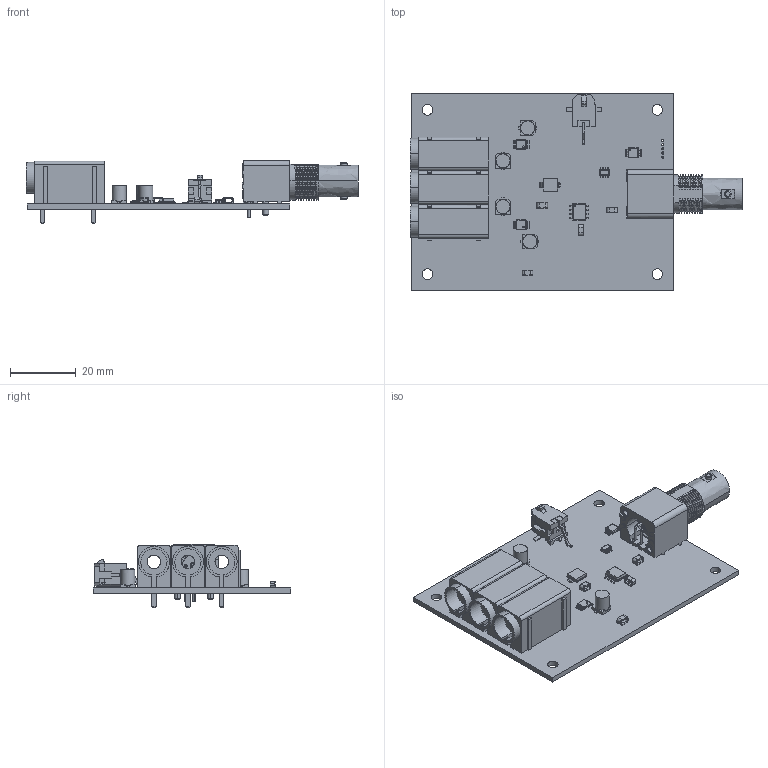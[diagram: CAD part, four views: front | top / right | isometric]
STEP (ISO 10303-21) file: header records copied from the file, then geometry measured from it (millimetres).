
FILE_DESCRIPTION(('KiCad electronic assembly'),'2;1');
FILE_NAME('cosmic_ray_detector.step','2022-05-26T20:18:57',('Pcbnew'),( 'Kicad'),'Open CASCADE STEP processor 7.5','KiCad to STEP converter' ,'Unknown');
FILE_SCHEMA(('AUTOMOTIVE_DESIGN { 1 0 10303 214 1 1 1 1 }'));
Length unit declared in the file: millimetre
Products named in the file (26): cosmic_ray_detector 1; CAP_2153_0405_VIS; COMPOUND; s1751-46r; SOLID; AD5270BRMZ-100-RL7; 73137-5003; MSOP-8-1EP_3x3mm_P0.65mm_EP1.68x1.88mm; User Library-Multicomp_24_243_2(black); User Library-Multicomp_24_243_1 (red); VBPW34S--3DModel-STEP-56544; User Library-Multicomp_24_243_4 (green); TL072CDT; 430450210; TLV3501AIDBVTG4; _autosave-cosmic_ray_detector PCB
Assembly tree (32 placements, depth 3):
  cosmic_ray_detector 1
    CAP_2153_0405_VIS  x4
      COMPOUND
    s1751-46r  x4
      SOLID
    AD5270BRMZ-100-RL7
      COMPOUND
    73137-5003
      COMPOUND
    MSOP-8-1EP_3x3mm_P0.65mm_EP1.68x1.88mm  x2
      SOLID
    User Library-Multicomp_24_243_2(black)
      SOLID
    User Library-Multicomp_24_243_1 (red)
      SOLID
    VBPW34S--3DModel-STEP-56544
      COMPOUND
    User Library-Multicomp_24_243_4 (green)
      SOLID
    TL072CDT
      COMPOUND
    430450210
      COMPOUND
    TLV3501AIDBVTG4
      COMPOUND
    _autosave-cosmic_ray_detector PCB
Bounding box: 101.1 x 60 x 19.2 mm (x, y, z)
Volume: 18757.4 mm3; surface area: 20246 mm2
Topology: 66 solids, 67 shells, 1859 faces, 4801 edges, 3119 vertices
Faces by surface type: bspline 1826, cylinder 27, plane 6
Full cylindrical faces by diameter (mm): 0.2 x8, 0.65 x5, 0.99 x2, 1.97 x6, 2.11 x2, 3.2 x4
Entity records: 94454 total; most frequent: CARTESIAN_POINT 45394, B_SPLINE_CURVE_WITH_KNOTS 9182, ORIENTED_EDGE 7146, PCURVE 7146, DEFINITIONAL_REPRESENTATION 7146, EDGE_CURVE 3573, SURFACE_CURVE 3542, VERTEX_POINT 2303
